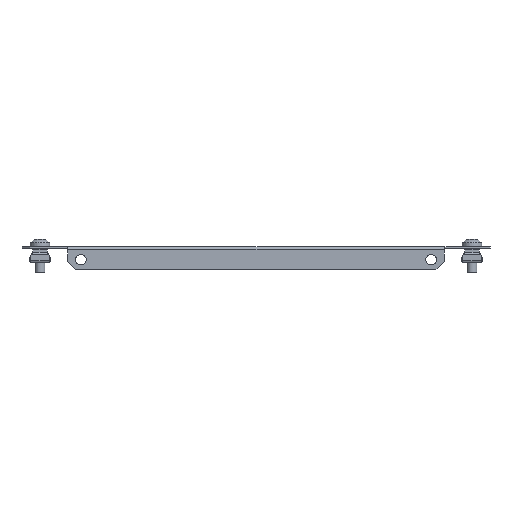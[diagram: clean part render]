
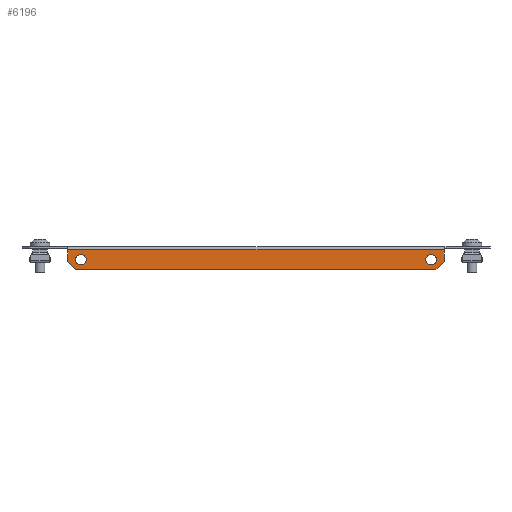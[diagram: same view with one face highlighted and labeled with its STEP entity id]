
A CAD part, front view. The second image highlights one B-rep face of the part: STEP entity #6196.
In plain terms, the highlighted planar face has unit normal (0, -1, 0).
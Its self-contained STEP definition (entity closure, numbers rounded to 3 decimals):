
#21 = DIRECTION ( 'NONE',  ( 0.707, 0., -0.707 ) ) ;
#237 = VERTEX_POINT ( 'NONE', #2651 ) ;
#254 = CARTESIAN_POINT ( 'NONE',  ( 62., -49.5, -62. ) ) ;
#290 = VECTOR ( 'NONE', #7363, 1000. ) ;
#429 = VERTEX_POINT ( 'NONE', #1193 ) ;
#505 = LINE ( 'NONE', #6232, #4488 ) ;
#785 = CARTESIAN_POINT ( 'NONE',  ( 0., -49.5, 0. ) ) ;
#1057 = EDGE_CURVE ( 'NONE', #237, #6166, #4145, .T. ) ;
#1134 = ORIENTED_EDGE ( 'NONE', *, *, #4114, .T. ) ;
#1193 = CARTESIAN_POINT ( 'NONE',  ( 115., -49.5, -9. ) ) ;
#1346 = PLANE ( 'NONE',  #4650 ) ;
#1513 = DIRECTION ( 'NONE',  ( 0., 0., 1. ) ) ;
#1515 = ORIENTED_EDGE ( 'NONE', *, *, #3741, .T. ) ;
#1799 = FACE_OUTER_BOUND ( 'NONE', #4697, .T. ) ;
#2371 = VERTEX_POINT ( 'NONE', #4890 ) ;
#2430 = LINE ( 'NONE', #6503, #7415 ) ;
#2466 = FACE_BOUND ( 'NONE', #6641, .T. ) ;
#2651 = CARTESIAN_POINT ( 'NONE',  ( -115., -49.5, -2. ) ) ;
#2709 = VECTOR ( 'NONE', #5405, 1000. ) ;
#2746 = ORIENTED_EDGE ( 'NONE', *, *, #1057, .T. ) ;
#2788 = VERTEX_POINT ( 'NONE', #4600 ) ;
#2958 = CIRCLE ( 'NONE', #7043, 3.25 ) ;
#2978 = CARTESIAN_POINT ( 'NONE',  ( 115., -49.5, -2. ) ) ;
#3194 = ORIENTED_EDGE ( 'NONE', *, *, #7381, .T. ) ;
#3204 = CARTESIAN_POINT ( 'NONE',  ( -107., -49.5, -8. ) ) ;
#3330 = EDGE_CURVE ( 'NONE', #6166, #2371, #505, .T. ) ;
#3398 = CARTESIAN_POINT ( 'NONE',  ( 0., -49.5, -14. ) ) ;
#3439 = ORIENTED_EDGE ( 'NONE', *, *, #6612, .F. ) ;
#3596 = FACE_BOUND ( 'NONE', #6399, .T. ) ;
#3643 = CARTESIAN_POINT ( 'NONE',  ( 0., -49.5, -2. ) ) ;
#3650 = CIRCLE ( 'NONE', #5942, 3.25 ) ;
#3741 = EDGE_CURVE ( 'NONE', #2371, #6260, #6799, .T. ) ;
#3801 = VECTOR ( 'NONE', #7227, 1000. ) ;
#4029 = ORIENTED_EDGE ( 'NONE', *, *, #3330, .T. ) ;
#4041 = CARTESIAN_POINT ( 'NONE',  ( -107., -49.5, -4.75 ) ) ;
#4108 = VECTOR ( 'NONE', #6455, 1000. ) ;
#4114 = EDGE_CURVE ( 'NONE', #6343, #6343, #3650, .T. ) ;
#4145 = LINE ( 'NONE', #5249, #4108 ) ;
#4258 = DIRECTION ( 'NONE',  ( 0., 0., 1. ) ) ;
#4488 = VECTOR ( 'NONE', #21, 1000. ) ;
#4600 = CARTESIAN_POINT ( 'NONE',  ( 107., -49.5, -4.75 ) ) ;
#4650 = AXIS2_PLACEMENT_3D ( 'NONE', #785, #6474, #5869 ) ;
#4697 = EDGE_LOOP ( 'NONE', ( #1515, #3194, #7187, #7255, #2746, #4029 ) ) ;
#4835 = LINE ( 'NONE', #254, #2709 ) ;
#4890 = CARTESIAN_POINT ( 'NONE',  ( -110., -49.5, -14. ) ) ;
#4934 = LINE ( 'NONE', #3643, #3801 ) ;
#5249 = CARTESIAN_POINT ( 'NONE',  ( -115., -49.5, 0. ) ) ;
#5339 = CARTESIAN_POINT ( 'NONE',  ( -115., -49.5, -9. ) ) ;
#5405 = DIRECTION ( 'NONE',  ( 0.707, 0., 0.707 ) ) ;
#5504 = DIRECTION ( 'NONE',  ( 0., -1., 0. ) ) ;
#5762 = VERTEX_POINT ( 'NONE', #2978 ) ;
#5831 = CARTESIAN_POINT ( 'NONE',  ( 110., -49.5, -14. ) ) ;
#5869 = DIRECTION ( 'NONE',  ( 0., 0., 1. ) ) ;
#5942 = AXIS2_PLACEMENT_3D ( 'NONE', #3204, #7159, #4258 ) ;
#6166 = VERTEX_POINT ( 'NONE', #5339 ) ;
#6196 = ADVANCED_FACE ( 'NONE', ( #2466, #3596, #1799 ), #1346, .T. ) ;
#6232 = CARTESIAN_POINT ( 'NONE',  ( -62., -49.5, -62. ) ) ;
#6244 = CARTESIAN_POINT ( 'NONE',  ( 107., -49.5, -8. ) ) ;
#6260 = VERTEX_POINT ( 'NONE', #5831 ) ;
#6286 = EDGE_CURVE ( 'NONE', #429, #5762, #2430, .T. ) ;
#6343 = VERTEX_POINT ( 'NONE', #4041 ) ;
#6399 = EDGE_LOOP ( 'NONE', ( #1134 ) ) ;
#6455 = DIRECTION ( 'NONE',  ( 0., 0., -1. ) ) ;
#6474 = DIRECTION ( 'NONE',  ( 0., -1., 0. ) ) ;
#6503 = CARTESIAN_POINT ( 'NONE',  ( 115., -49.5, 0. ) ) ;
#6612 = EDGE_CURVE ( 'NONE', #2788, #2788, #2958, .T. ) ;
#6619 = EDGE_CURVE ( 'NONE', #5762, #237, #4934, .T. ) ;
#6641 = EDGE_LOOP ( 'NONE', ( #3439 ) ) ;
#6799 = LINE ( 'NONE', #3398, #290 ) ;
#7043 = AXIS2_PLACEMENT_3D ( 'NONE', #6244, #5504, #1513 ) ;
#7063 = DIRECTION ( 'NONE',  ( 0., 0., 1. ) ) ;
#7159 = DIRECTION ( 'NONE',  ( 0., 1., 0. ) ) ;
#7187 = ORIENTED_EDGE ( 'NONE', *, *, #6286, .T. ) ;
#7227 = DIRECTION ( 'NONE',  ( -1., 0., 0. ) ) ;
#7255 = ORIENTED_EDGE ( 'NONE', *, *, #6619, .T. ) ;
#7363 = DIRECTION ( 'NONE',  ( 1., 0., 0. ) ) ;
#7381 = EDGE_CURVE ( 'NONE', #6260, #429, #4835, .T. ) ;
#7415 = VECTOR ( 'NONE', #7063, 1000. ) ;
